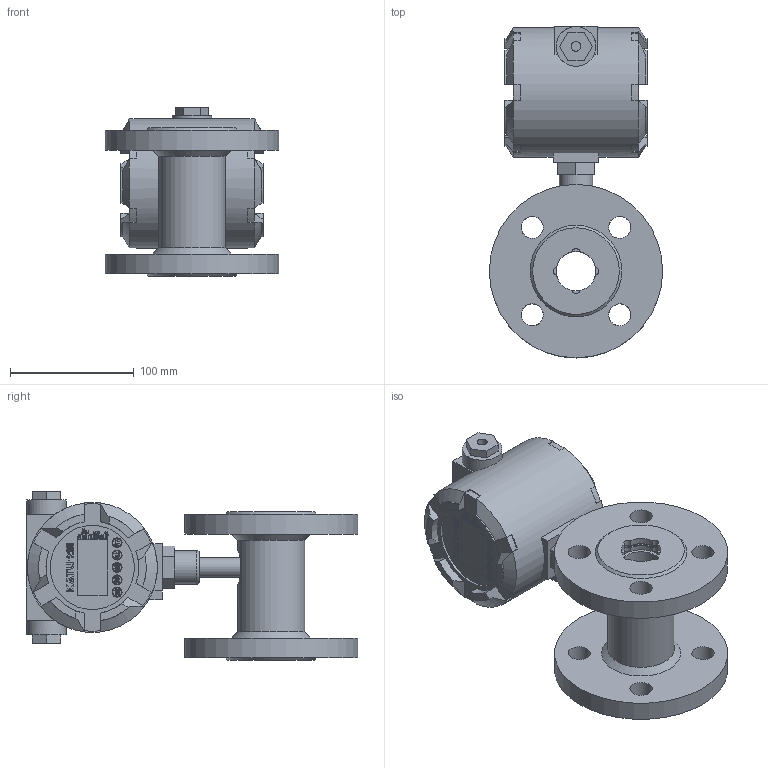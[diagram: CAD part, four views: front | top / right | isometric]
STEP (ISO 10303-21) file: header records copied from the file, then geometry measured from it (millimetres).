
FILE_DESCRIPTION( (''), '2;1');
FILE_NAME( 'QTKC_DN32_flange_Ex.step', '2024-10-14T10:12:36+08:00', (''), (''), '', '', '');
FILE_SCHEMA (('AUTOMOTIVE_DESIGN { 1 0 10303 214 3 1 1 1 }'));
Length unit declared in the file: millimetre
Products named in the file (1): QTKC DN32_flange_Ex
Bounding box: 140 x 268 x 136.2 mm (x, y, z)
Volume: 1518832.9 mm3; surface area: 179881.3 mm2
Topology: 4 solids, 4 shells, 1388 faces, 3794 edges, 2522 vertices
Faces by surface type: plane 744, extrusion 504, cylinder 112, cone 20, torus 6, bspline 2
Full cylindrical faces by diameter (mm): 3.3 x1, 8 x2, 16 x1, 16.5 x1, 18 x8, 18.5 x1, 20 x2, 27 x1, 32 x3, 36.5 x2, 38 x2, 54 x1, 68 x1, 105 x1, 140 x2
Entity records: 46865 total; most frequent: CARTESIAN_POINT 13798, ORIENTED_EDGE 7454, DIRECTION 5195, EDGE_CURVE 3727, VECTOR 2817, VERTEX_POINT 2496, LINE 2313, B_SPLINE_CURVE_WITH_KNOTS 1612
